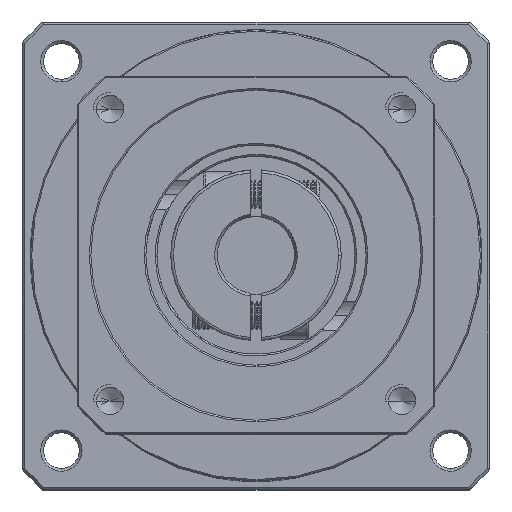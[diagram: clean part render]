
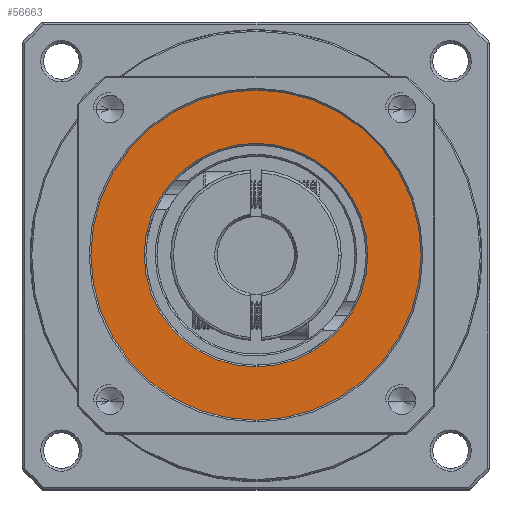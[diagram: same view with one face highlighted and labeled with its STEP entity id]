
A CAD part, top view. The second image highlights one B-rep face of the part: STEP entity #56663.
In plain terms, the highlighted planar face has unit normal (0, 0, 1).
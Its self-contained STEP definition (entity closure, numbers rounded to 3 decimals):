
#1659 = EDGE_CURVE ( 'NONE', #40157, #84016, #7019, .T. ) ;
#4401 = ORIENTED_EDGE ( 'NONE', *, *, #57367, .T. ) ;
#7019 = CIRCLE ( 'NONE', #87747, 20.3 ) ;
#8033 = EDGE_CURVE ( 'NONE', #84016, #40157, #70360, .T. ) ;
#8572 = FACE_OUTER_BOUND ( 'NONE', #108506, .T. ) ;
#11145 = CIRCLE ( 'NONE', #11878, 30. ) ;
#11878 = AXIS2_PLACEMENT_3D ( 'NONE', #21778, #86638, #31092 ) ;
#12584 = CARTESIAN_POINT ( 'NONE',  ( -90.448, 22.673, 13.877 ) ) ;
#17838 = DIRECTION ( 'NONE',  ( 0., 0., -1. ) ) ;
#17863 = DIRECTION ( 'NONE',  ( 0., 0., 1. ) ) ;
#19082 = VERTEX_POINT ( 'NONE', #21182 ) ;
#21182 = CARTESIAN_POINT ( 'NONE',  ( -40.148, 22.673, 13.877 ) ) ;
#21778 = CARTESIAN_POINT ( 'NONE',  ( -70.148, 22.673, 13.877 ) ) ;
#23189 = ORIENTED_EDGE ( 'NONE', *, *, #105861, .T. ) ;
#26791 = AXIS2_PLACEMENT_3D ( 'NONE', #73393, #17863, #82727 ) ;
#27623 = CARTESIAN_POINT ( 'NONE',  ( -70.148, 22.673, 13.877 ) ) ;
#30153 = DIRECTION ( 'NONE',  ( 0., 0., -1. ) ) ;
#31092 = DIRECTION ( 'NONE',  ( 1., 0., 0. ) ) ;
#36116 = PLANE ( 'NONE',  #110228 ) ;
#36936 = DIRECTION ( 'NONE',  ( 1., 0., 0. ) ) ;
#40157 = VERTEX_POINT ( 'NONE', #12584 ) ;
#40896 = ORIENTED_EDGE ( 'NONE', *, *, #1659, .T. ) ;
#53755 = AXIS2_PLACEMENT_3D ( 'NONE', #73363, #17838, #82703 ) ;
#56663 = ADVANCED_FACE ( 'NONE', ( #79626, #8572 ), #36116, .T. ) ;
#57367 = EDGE_CURVE ( 'NONE', #76581, #19082, #11145, .T. ) ;
#59742 = CARTESIAN_POINT ( 'NONE',  ( -100.148, 22.673, 13.877 ) ) ;
#64374 = CIRCLE ( 'NONE', #26791, 30. ) ;
#70360 = CIRCLE ( 'NONE', #53755, 20.3 ) ;
#73363 = CARTESIAN_POINT ( 'NONE',  ( -70.148, 22.673, 13.877 ) ) ;
#73393 = CARTESIAN_POINT ( 'NONE',  ( -70.148, 22.673, 13.877 ) ) ;
#76289 = EDGE_LOOP ( 'NONE', ( #85418, #40896 ) ) ;
#76581 = VERTEX_POINT ( 'NONE', #59742 ) ;
#79626 = FACE_BOUND ( 'NONE', #76289, .T. ) ;
#82703 = DIRECTION ( 'NONE',  ( 1., 0., 0. ) ) ;
#82727 = DIRECTION ( 'NONE',  ( 1., 0., 0. ) ) ;
#84016 = VERTEX_POINT ( 'NONE', #104489 ) ;
#85418 = ORIENTED_EDGE ( 'NONE', *, *, #8033, .T. ) ;
#85692 = CARTESIAN_POINT ( 'NONE',  ( -70.148, 22.673, 13.877 ) ) ;
#86638 = DIRECTION ( 'NONE',  ( 0., 0., 1. ) ) ;
#87747 = AXIS2_PLACEMENT_3D ( 'NONE', #85692, #30153, #94949 ) ;
#92475 = DIRECTION ( 'NONE',  ( 0., 0., 1. ) ) ;
#94949 = DIRECTION ( 'NONE',  ( 1., 0., 0. ) ) ;
#104489 = CARTESIAN_POINT ( 'NONE',  ( -49.848, 22.673, 13.877 ) ) ;
#105861 = EDGE_CURVE ( 'NONE', #19082, #76581, #64374, .T. ) ;
#108506 = EDGE_LOOP ( 'NONE', ( #23189, #4401 ) ) ;
#110228 = AXIS2_PLACEMENT_3D ( 'NONE', #27623, #92475, #36936 ) ;
